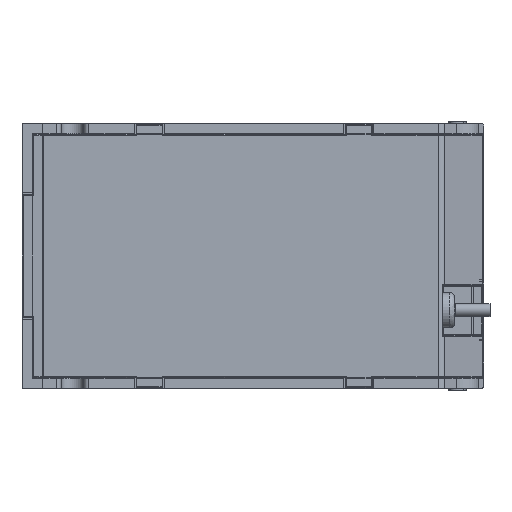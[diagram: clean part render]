
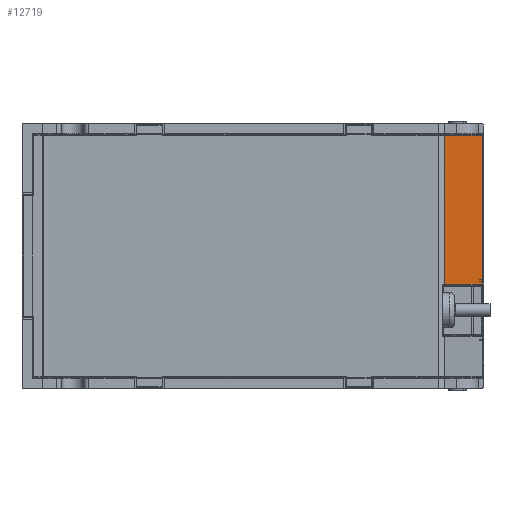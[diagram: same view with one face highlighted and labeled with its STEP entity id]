
A CAD part, front view. The second image highlights one B-rep face of the part: STEP entity #12719.
In plain terms, the highlighted planar face has unit normal (0.8, -0.6, 0).
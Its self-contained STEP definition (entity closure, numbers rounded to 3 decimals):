
#369 = DIRECTION ( 'NONE',  ( 0., 0., -1. ) ) ;
#1737 = LINE ( 'NONE', #15400, #10432 ) ;
#1756 = EDGE_CURVE ( 'NONE', #9548, #8109, #13233, .T. ) ;
#1878 = CARTESIAN_POINT ( 'NONE',  ( 132.4, -42.3, -75.793 ) ) ;
#2829 = VERTEX_POINT ( 'NONE', #7975 ) ;
#2889 = EDGE_CURVE ( 'NONE', #8109, #2829, #14323, .T. ) ;
#2897 = FACE_OUTER_BOUND ( 'NONE', #14311, .T. ) ;
#3009 = DIRECTION ( 'NONE',  ( -0.6, -0.8, 0. ) ) ;
#4091 = ORIENTED_EDGE ( 'NONE', *, *, #1756, .F. ) ;
#4297 = LINE ( 'NONE', #1878, #13772 ) ;
#4398 = DIRECTION ( 'NONE',  ( 0.6, 0.8, 0. ) ) ;
#4427 = ORIENTED_EDGE ( 'NONE', *, *, #2889, .F. ) ;
#4599 = PLANE ( 'NONE',  #8844 ) ;
#5039 = ORIENTED_EDGE ( 'NONE', *, *, #12065, .F. ) ;
#5277 = CARTESIAN_POINT ( 'NONE',  ( 147.44, -22.247, -75.793 ) ) ;
#5773 = DIRECTION ( 'NONE',  ( -0.8, 0.6, 0. ) ) ;
#6624 = CARTESIAN_POINT ( 'NONE',  ( 132.4, -42.3, -11.2 ) ) ;
#7975 = CARTESIAN_POINT ( 'NONE',  ( 132.4, -42.3, -11.2 ) ) ;
#8109 = VERTEX_POINT ( 'NONE', #8411 ) ;
#8243 = CARTESIAN_POINT ( 'NONE',  ( 132.4, -42.3, -75.793 ) ) ;
#8411 = CARTESIAN_POINT ( 'NONE',  ( 147.44, -22.247, -11.2 ) ) ;
#8581 = VERTEX_POINT ( 'NONE', #14225 ) ;
#8698 = EDGE_CURVE ( 'NONE', #8581, #9548, #1737, .T. ) ;
#8844 = AXIS2_PLACEMENT_3D ( 'NONE', #8243, #5773, #13276 ) ;
#9155 = DIRECTION ( 'NONE',  ( 0., 0., 1. ) ) ;
#9548 = VERTEX_POINT ( 'NONE', #14861 ) ;
#9925 = VECTOR ( 'NONE', #369, 1000. ) ;
#10432 = VECTOR ( 'NONE', #4398, 1000. ) ;
#11043 = VECTOR ( 'NONE', #3009, 1000. ) ;
#11474 = ORIENTED_EDGE ( 'NONE', *, *, #8698, .F. ) ;
#12065 = EDGE_CURVE ( 'NONE', #2829, #8581, #4297, .T. ) ;
#12719 = ADVANCED_FACE ( 'NONE', ( #2897 ), #4599, .F. ) ;
#13233 = LINE ( 'NONE', #5277, #9925 ) ;
#13276 = DIRECTION ( 'NONE',  ( -0.6, -0.8, 0. ) ) ;
#13772 = VECTOR ( 'NONE', #9155, 1000. ) ;
#14225 = CARTESIAN_POINT ( 'NONE',  ( 132.4, -42.3, 47.9 ) ) ;
#14311 = EDGE_LOOP ( 'NONE', ( #11474, #5039, #4427, #4091 ) ) ;
#14323 = LINE ( 'NONE', #6624, #11043 ) ;
#14861 = CARTESIAN_POINT ( 'NONE',  ( 147.44, -22.247, 47.9 ) ) ;
#15400 = CARTESIAN_POINT ( 'NONE',  ( 132.4, -42.3, 47.9 ) ) ;
